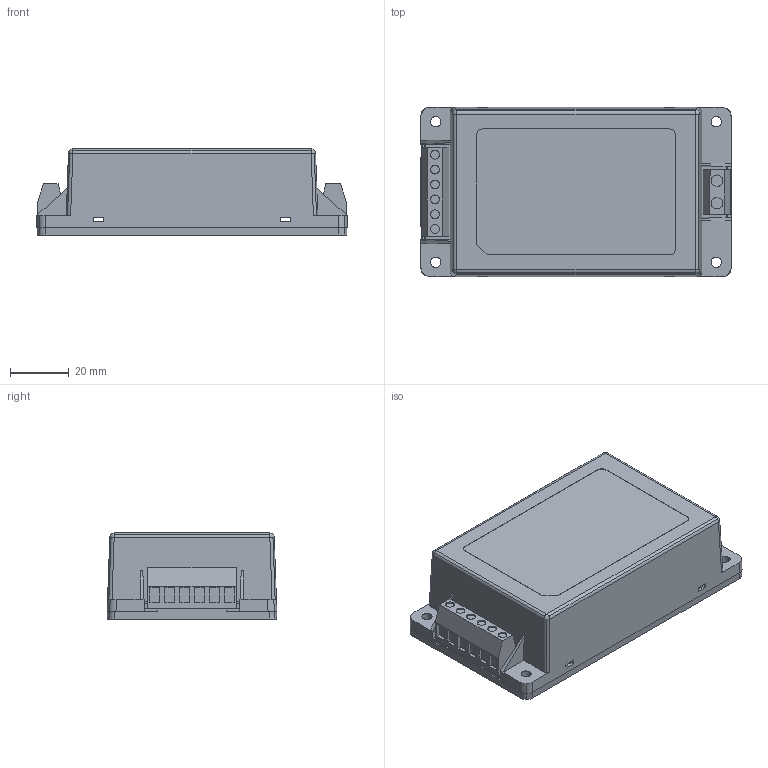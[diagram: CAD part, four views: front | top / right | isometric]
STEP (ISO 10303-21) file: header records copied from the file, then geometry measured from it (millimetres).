
FILE_DESCRIPTION((''),'2;1');
FILE_NAME('C:\Users\yaginuma\Documents\TRACO　STEPデータ送付関係\データ完_未提出_TMT305xxC_端子_トリプル\TMT30C_triple.stp\TMT30C_triple_Assembly.stp','2013-01-25T16:53:33',('yaginuma'),(''),'Autodesk Inventor 9','Autodesk Inventor 9','');
FILE_SCHEMA(('AUTOMOTIVE_DESIGN { 1 0 10303 214 1 1 1 1 }'));
Length unit declared in the file: millimetre
Products named in the file (7): TMT30C_triple_Assembly; TMT30C_triple_lu_CASE; TMT30C_triple_UP_CASE; サブ基板１; サブ基板２; 2極_フェニックス端子台; 6極_フェニックス端子台
Assembly tree (6 placements, depth 2):
  TMT30C_triple_Assembly
    TMT30C_triple_lu_CASE
    TMT30C_triple_UP_CASE
    サブ基板１
    サブ基板２
    2極_フェニックス端子台
    6極_フェニックス端子台
Bounding box: 106 x 58 x 29.4 mm (x, y, z)
Volume: 30408.7 mm3; surface area: 49985.1 mm2
Topology: 43 solids, 43 shells, 1245 faces, 3313 edges, 2193 vertices
Faces by surface type: plane 707, bspline 257, cylinder 257, cone 20, sphere 4
Entity records: 39801 total; most frequent: CARTESIAN_POINT 9611, ORIENTED_EDGE 6618, DIRECTION 5406, EDGE_CURVE 3309, VECTOR 2234, LINE 2234, VERTEX_POINT 2193, AXIS2_PLACEMENT_3D 1586
